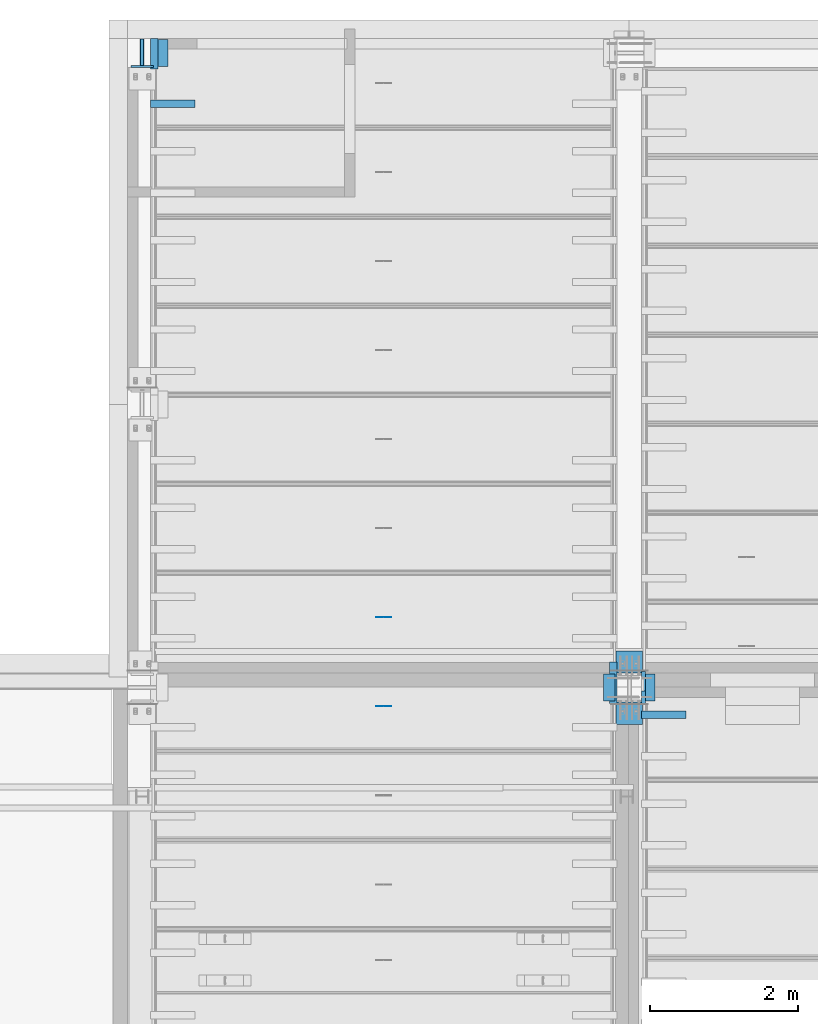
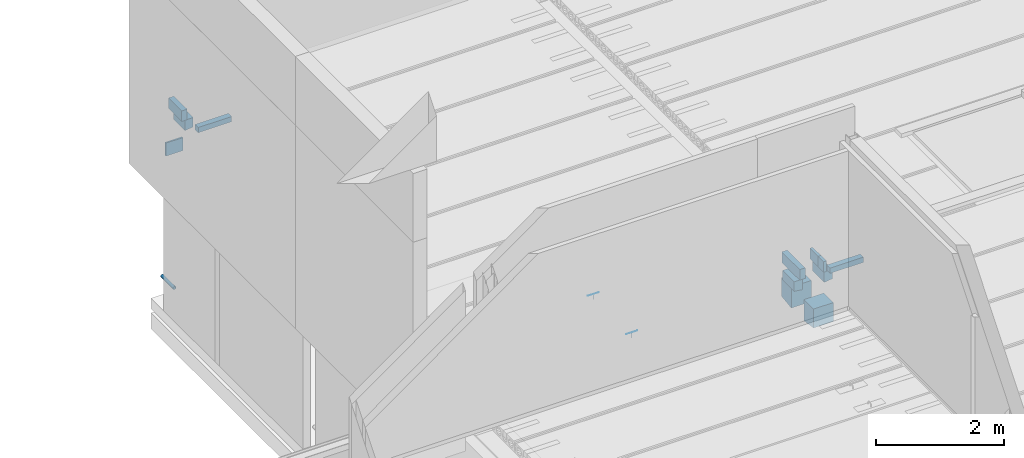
# One storey, part 25 of 230: 17 beams.
"""IFC4X3_ADD2 building model written with IfcOpenShell, lengths in millimetres."""

from ifc_helpers import new_model, entity, si_unit, direction, frame, frame_2d, origin_with_axes, place, context, subcontext, project, spatial, rectangle, hollow_circle, extrude, material, element, save


model = new_model("IFC4X3_ADD2")

# Units and contexts
model_context = context("Model", 3, precision=1e-05, world=origin_with_axes(), true_north=direction((0.0, 1.0)))
body_context = subcontext(model_context, "Body", "Model", "MODEL_VIEW")
ifc_project = project(units=[si_unit("LENGTHUNIT", "METRE", prefix="MILLI"), si_unit("AREAUNIT", "SQUARE_METRE"), si_unit("VOLUMEUNIT", "CUBIC_METRE"), si_unit("PLANEANGLEUNIT", "RADIAN"), si_unit("TIMEUNIT", "SECOND"), si_unit("MASSUNIT", "GRAM")], contexts=[model_context])

# Site, building, storey
site_placement = place(None, origin_with_axes())
site = spatial("IfcSite", under=ifc_project, at=site_placement, Name="Site", CompositionType="ELEMENT")
building_placement = place(site_placement, origin_with_axes())
building = spatial("IfcBuilding", under=site, at=building_placement, Name="IFC Building Story")
storey_placement = place(building_placement, origin_with_axes())
storey = spatial("IfcBuildingStorey", under=building, at=storey_placement, Name="ETAGE 00 (0)", Elevation=0.0)

# Beams
ifc_material_1 = material(Name="STEEL/Accessory_C50/60 64192")
beam_1_placement = place(storey_placement, frame((33671.1883474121, 26174.9989624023, 3875.0), z_axis=(0.0, 1.0, 0.0), x_axis=(0.0, 0.0, 1.0)))
element("IfcBeam", 1, at=beam_1_placement, inside=storey, material=ifc_material_1, Name="BEK1", ObjectType="CORBEL200-150-180", context=body_context, shape_type="SweptSolid", body=[
    extrude(entity("IfcTrapeziumProfileDef", "AREA", None, entity("IfcAxis2Placement2D", entity("IfcCartesianPoint", [0.0, 5.95523630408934e-12]), entity("IfcDirection", [1.0, 0.0])), 200.0, 180.0, 150.0, 19.9999999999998), origin_with_axes(), (0.0, 0.0, 1.0), 360.0),
])
for number, where, z_axis, x_axis, name in (
    (2, (39786.189, 17460.0, 3390.0), (1.0, 0.0, 0.0), (0.0, 0.0, 1.0), "BEK1"),
    (3, (40146.189, 18150.0, 3390.0), (-1.0, 0.0, 0.0), (0.0, 0.0, 1.0), "BEK1"),
):
    element("IfcBeam", number, at=place(storey_placement, frame(where, z_axis=z_axis, x_axis=x_axis)), inside=storey, material=ifc_material_1, Name=name, ObjectType="CORBEL400-300-360", context=body_context, shape_type="SweptSolid", body=[
        extrude(entity("IfcTrapeziumProfileDef", "AREA", None, entity("IfcAxis2Placement2D", entity("IfcCartesianPoint", [0.0, 5.95523630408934e-12]), entity("IfcDirection", [1.0, 0.0])), 400.0, 360.0, 300.0, 40.0), origin_with_axes(), (0.0, 0.0, 1.0), 360.0),
    ])
for number, where, z_axis, x_axis, name in (
    (4, (39696.189, 17985.0, 3875.0), (0.0, -1.0, 0.0), (0.0, 0.0, 1.0), "BEK1"),
    (5, (40236.189, 17625.0, 3875.0), (0.0, 1.0, 0.0), (0.0, 0.0, 1.0), "BEK1"),
):
    element("IfcBeam", number, at=place(storey_placement, frame(where, z_axis=z_axis, x_axis=x_axis)), inside=storey, material=ifc_material_1, Name=name, ObjectType="CORBEL200-150-180", context=body_context, shape_type="SweptSolid", body=[
        extrude(entity("IfcTrapeziumProfileDef", "AREA", None, entity("IfcAxis2Placement2D", entity("IfcCartesianPoint", [0.0, 5.95523630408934e-12]), entity("IfcDirection", [1.0, 0.0])), 200.0, 180.0, 150.0, 19.9999999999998), origin_with_axes(), (0.0, 0.0, 1.0), 360.0),
    ])
ifc_material_2 = material(Name="STEEL/Accessory_invisible 261")
beam_2_placement = place(storey_placement, frame((36659.1890000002, 18750.0009155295, 4049.9999909), z_axis=(-1.0, 0.0, 0.0), x_axis=(0.0, 0.0, -1.0)))
element("IfcBeam", 6, at=beam_2_placement, inside=storey, material=ifc_material_2, Name="ES6", ObjectType="1*1 2", context=body_context, shape_type="SweptSolid", body=[
    extrude(rectangle(XDim=100.0, YDim=0.9999999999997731, at=frame_2d((0.0, 5.95523630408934e-12), x_axis=(1.0, 0.0))), origin_with_axes(), (0.0, 0.0, 1.0), 1.0),
])
beam_3_placement = place(storey_placement, frame((36758.68900000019, 18750.0009155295, 4100.0), z_axis=(-1.0, 0.0, 0.0), x_axis=(0.0, 1.0, 0.0)))
element("IfcBeam", 7, at=beam_3_placement, inside=storey, material=ifc_material_2, Name="ES31", ObjectType="1*1 3", context=body_context, shape_type="SweptSolid", body=[
    extrude(rectangle(XDim=0.9999999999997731, YDim=0.9999999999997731, at=frame_2d((0.0, 5.95523630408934e-12), x_axis=(1.0, 0.0))), origin_with_axes(), (0.0, 0.0, 1.0), 199.9999999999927),
])
ifc_material_3 = material(Name="STEEL/Accessory_invisible")
beam_4_placement = place(storey_placement, frame((33516.1889999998, 26345.0009155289, 4099.9999909), z_axis=(1.0, 0.0, 0.0), x_axis=(0.0, 0.0, -1.0)))
element("IfcBeam", 8, at=beam_4_placement, inside=storey, material=ifc_material_3, Name="ES32", ObjectType="200*410", context=body_context, shape_type="SweptSolid", body=[
    extrude(rectangle(XDim=200.0, YDim=410.000000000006, at=frame_2d((0.0, 5.95523630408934e-12), x_axis=(1.0, 0.0))), origin_with_axes(), (0.0, 0.0, 1.0), 99.99999999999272),
])
beam_5_placement = place(storey_placement, frame((34116.1890000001, 25670.0009155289, 4150.0), z_axis=(-1.0, 0.0, 0.0), x_axis=(0.0, 1.0, 0.0)))
element("IfcBeam", 9, at=beam_5_placement, inside=storey, material=ifc_material_3, Name="ES7", ObjectType="100*100", context=body_context, shape_type="SweptSolid", body=[
    extrude(rectangle(XDim=100.0, YDim=99.99999999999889, at=frame_2d((0.0, 5.95523630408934e-12), x_axis=(1.0, 0.0))), origin_with_axes(), (0.0, 0.0, 1.0), 600.0),
])
beam_6_placement = place(storey_placement, frame((40181.189, 17675.0, 4099.9999909), z_axis=(-1.0, 0.0, 0.0), x_axis=(0.0, 0.0, 1.0)))
element("IfcBeam", 10, at=beam_6_placement, inside=storey, material=ifc_material_3, Name="ES32", ObjectType="200*170", context=body_context, shape_type="SweptSolid", body=[
    extrude(rectangle(XDim=200.0, YDim=169.999999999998, at=frame_2d((0.0, 5.95523630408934e-12), x_axis=(1.0, 0.0))), origin_with_axes(), (0.0, 0.0, 1.0), 50.0),
])
beam_7_placement = place(storey_placement, frame((40731.189, 17440.0, 4150.0), z_axis=(-1.0, 0.0, 0.0), x_axis=(0.0, 1.0, 0.0)))
element("IfcBeam", 11, at=beam_7_placement, inside=storey, material=ifc_material_3, Name="ES7", ObjectType="100*100", context=body_context, shape_type="SweptSolid", body=[
    extrude(rectangle(XDim=100.0, YDim=99.99999999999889, at=frame_2d((0.0, 5.95523630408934e-12), x_axis=(1.0, 0.0))), origin_with_axes(), (0.0, 0.0, 1.0), 600.0),
])
beam_8_placement = place(storey_placement, frame((40131.189, 17890.0, 4099.9999909), z_axis=(1.0, 0.0, 0.0), x_axis=(0.0, 0.0, -1.0)))
element("IfcBeam", 12, at=beam_8_placement, inside=storey, material=ifc_material_3, Name="ES32", ObjectType="200*260", context=body_context, shape_type="SweptSolid", body=[
    extrude(rectangle(XDim=200.0, YDim=260.000000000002, at=frame_2d((0.0, 5.95523630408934e-12), x_axis=(1.0, 0.0))), origin_with_axes(), (0.0, 0.0, 1.0), 50.0),
])
ifc_material_4 = material(Name="STEEL/Accessory_EPS")
beam_9_placement = place(storey_placement, frame((33551.1883474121, 26174.9989624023, 3545.00000000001), z_axis=(-1.0, 0.0, 0.0), x_axis=(0.0, 0.0, -1.0)))
element("IfcBeam", 13, at=beam_9_placement, inside=storey, material=ifc_material_4, Name="POL4", ObjectType="30*300", context=body_context, shape_type="SweptSolid", body=[
    extrude(rectangle(XDim=250.0, YDim=30.0000000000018, at=frame_2d((0.0, 5.95523630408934e-12), x_axis=(1.0, 0.0))), origin_with_axes(), (0.0, 0.0, 1.0), 300.0),
])
ifc_material_5 = material(Name="STEEL/Accessory_PVC")
beam_10_placement = place(storey_placement, frame((33401.1883474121, 26162.9989623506, 860.0), z_axis=(0.0, 1.0, 0.0), x_axis=(1.0, 0.0, 0.0)))
element("IfcBeam", 14, at=beam_10_placement, inside=storey, material=ifc_material_5, Name="PS13", ObjectType="O56*3", context=body_context, shape_type="SweptSolid", body=[
    extrude(hollow_circle(Radius=28.0, WallThickness=3.0, at=frame_2d((0.0, 5.95523630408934e-12), x_axis=(1.0, 0.0))), origin_with_axes(), (0.0, 0.0, 1.0), 384.0),
])
beam_11_placement = place(storey_placement, frame((39701.189000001, 17870.0009155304, 4100.0), z_axis=(1.0, 0.0, 0.0), x_axis=(0.0, 0.0, -1.0)))
element("IfcBeam", 15, at=beam_11_placement, inside=storey, material=ifc_material_3, Name="ES32", ObjectType="200*560", context=body_context, shape_type="SweptSolid", body=[
    extrude(rectangle(XDim=200.0, YDim=560.0, at=frame_2d((0.0, 5.95523630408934e-12), x_axis=(1.0, 0.0))), origin_with_axes(), (0.0, 0.0, 1.0), 100.0),
])
beam_12_placement = place(storey_placement, frame((36659.1890000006, 17550.0009155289, 4049.9999909), z_axis=(-1.0, 0.0, 0.0), x_axis=(0.0, 0.0, -1.0)))
element("IfcBeam", 16, at=beam_12_placement, inside=storey, material=ifc_material_2, Name="ES6", ObjectType="1*1 2", context=body_context, shape_type="SweptSolid", body=[
    extrude(rectangle(XDim=100.0, YDim=0.9999999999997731, at=frame_2d((0.0, 5.95523630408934e-12), x_axis=(1.0, 0.0))), origin_with_axes(), (0.0, 0.0, 1.0), 1.0),
])
beam_13_placement = place(storey_placement, frame((36758.6890000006, 17550.0009155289, 4100.0), z_axis=(-1.0, 0.0, 0.0), x_axis=(0.0, 1.0, 0.0)))
element("IfcBeam", 17, at=beam_13_placement, inside=storey, material=ifc_material_2, Name="ES31", ObjectType="1*1 3", context=body_context, shape_type="SweptSolid", body=[
    extrude(rectangle(XDim=0.9999999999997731, YDim=0.9999999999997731, at=frame_2d((0.0, 5.95523630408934e-12), x_axis=(1.0, 0.0))), origin_with_axes(), (0.0, 0.0, 1.0), 199.9999999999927),
])

save(model, "model.ifc")
